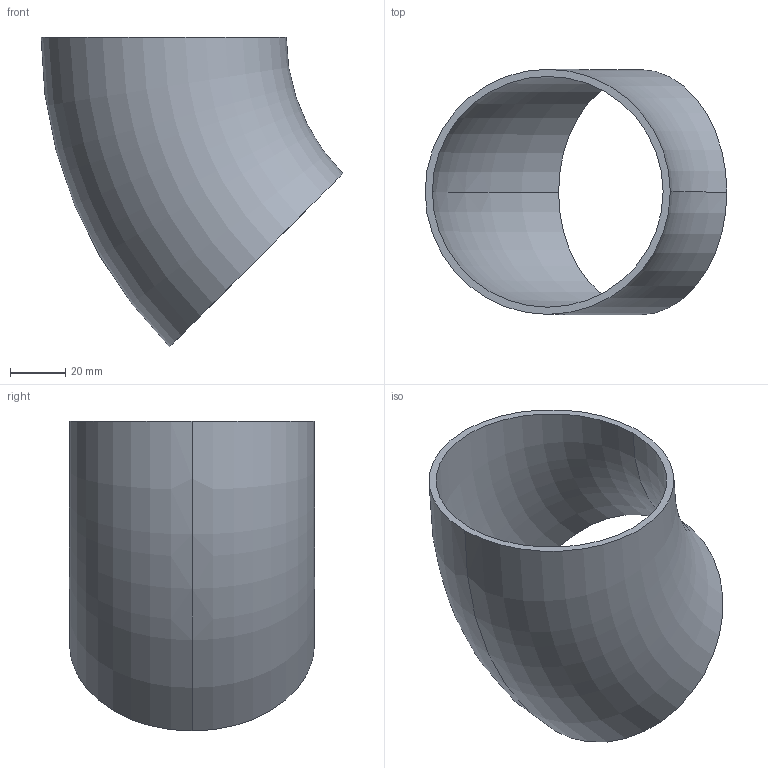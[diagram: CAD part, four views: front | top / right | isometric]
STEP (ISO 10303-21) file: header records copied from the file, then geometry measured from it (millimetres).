
FILE_DESCRIPTION (( 'STEP AP203' ), '1' );
FILE_NAME ('3D_R1650_88.9x2.6_17351470.STEP', '2024-08-03T09:05:49', ( '' ), ( '' ), 'SwSTEP 2.0', 'SolidWorks 2024', '' );
FILE_SCHEMA (( 'CONFIG_CONTROL_DESIGN' ));
Length unit declared in the file: millimetre
Products named in the file (1): 3D_R1650_88.9x2.6_17351470
Bounding box: 109.42 x 88.9 x 112.39 mm (x, y, z)
Volume: 63391.3 mm3; surface area: 50172.3 mm2
Topology: 1 solids, 1 shells, 6 faces, 12 edges, 8 vertices
Faces by surface type: torus 4, plane 2
Entity records: 249 total; most frequent: DIRECTION 38, CARTESIAN_POINT 27, ORIENTED_EDGE 24, AXIS2_PLACEMENT_3D 19, CIRCLE 12, EDGE_CURVE 12, VERTEX_POINT 8, PERSON_AND_ORGANIZATION 8
